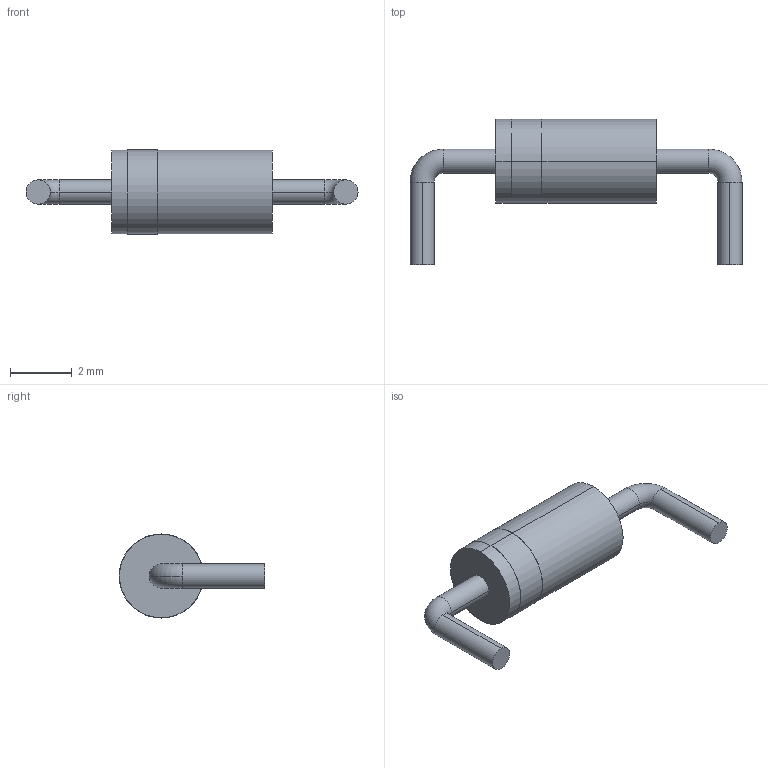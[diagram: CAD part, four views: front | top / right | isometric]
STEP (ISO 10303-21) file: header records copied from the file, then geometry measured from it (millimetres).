
FILE_DESCRIPTION (( 'STEP AP214' ), '1' );
FILE_NAME ( 'DIOAD1000W78L521D272.STEP', '2021-10-06T06:49:14', ( '' ), ( '' ), '', '©2017 PCB Libraries, Inc.', '' );
FILE_SCHEMA (( 'AUTOMOTIVE_DESIGN' ));
Length unit declared in the file: millimetre
Products named in the file (1): DIOAD1000W78L521D272
Bounding box: 10.79 x 4.73 x 2.73 mm (x, y, z)
Volume: 35.6 mm3; surface area: 85.3 mm2
Topology: 3 solids, 3 shells, 26 faces, 50 edges, 32 vertices
Faces by surface type: cylinder 14, plane 8, torus 4
Entity records: 811 total; most frequent: DIRECTION 140, CARTESIAN_POINT 109, ORIENTED_EDGE 100, AXIS2_PLACEMENT_3D 63, EDGE_CURVE 50, CIRCLE 36, VERTEX_POINT 32, STYLED_ITEM 30
